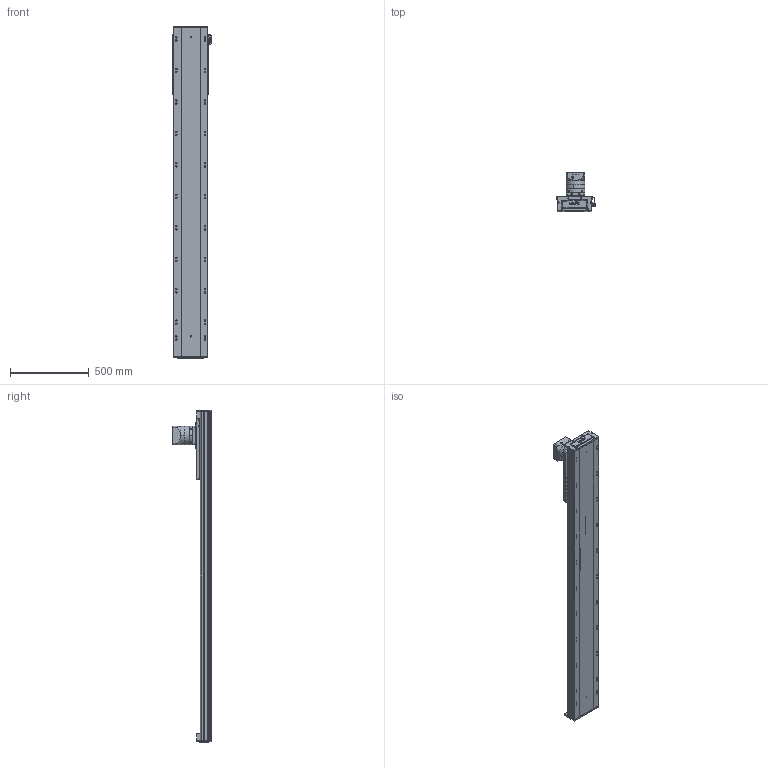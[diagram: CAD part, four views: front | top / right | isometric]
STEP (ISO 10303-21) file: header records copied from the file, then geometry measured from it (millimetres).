
FILE_DESCRIPTION (( 'STEP AP203' ), '1' );
FILE_NAME ('RY220-C-300-UK.SLDASM_1600.step', '2022-08-01T05:59:28', ( '' ), ( '' ), 'SwSTEP 2.0', 'SolidWorks 2016', '' );
FILE_SCHEMA (( 'CONFIG_CONTROL_DESIGN' ));
Length unit declared in the file: millimetre
Products named in the file (10): RY220喘沭賑輸; RY220-C-300-UK.SLDASM_1600; RY220喘沭綴裔啣; RY220菁釱MK-300_1600; PF115L1-S2-22-58-110-145-M8; 滅袉蝶輸ㄗG412隅秶ㄘ; RY220喘沭俋离覜茼え; RY140直线电机感应器674光电安装座; 覜茼ん674; RY220-齿条模组电机安装板
Assembly tree (12 placements, depth 2):
  RY220-C-300-UK.SLDASM_1600
    RY220菁釱MK-300_1600
    RY220喘沭賑輸
    RY220-齿条模组电机安装板
    PF115L1-S2-22-58-110-145-M8
    RY220喘沭綴裔啣  x2
    滅袉蝶輸ㄗG412隅秶ㄘ  x2
    RY140直线电机感应器674光电安装座
    覜茼ん674  x2
    RY220喘沭俋离覜茼え
Bounding box: 247 x 244.5 x 2109 mm (x, y, z)
Volume: 15622528.7 mm3; surface area: 3136726.7 mm2
Topology: 18 solids, 26 shells, 2112 faces, 5673 edges, 3585 vertices
Faces by surface type: cylinder 989, plane 751, cone 210, bspline 162
Entity records: 66949 total; most frequent: CARTESIAN_POINT 18345, DIRECTION 9967, ORIENTED_EDGE 9826, EDGE_CURVE 4913, AXIS2_PLACEMENT_3D 3795, VERTEX_POINT 3211, EDGE_LOOP 2424, LINE 2377
